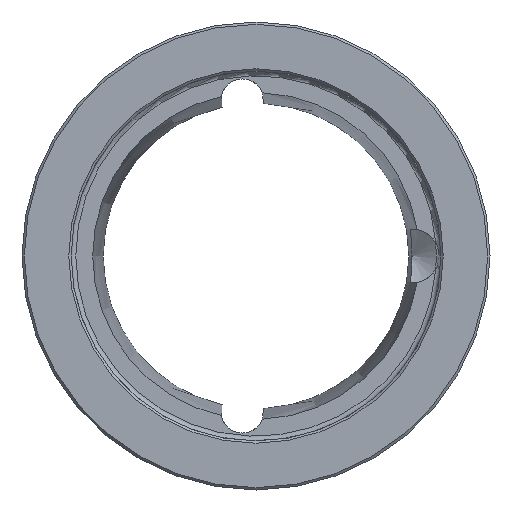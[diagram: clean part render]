
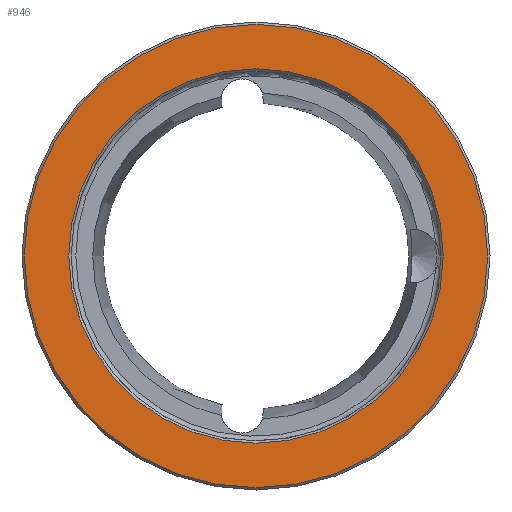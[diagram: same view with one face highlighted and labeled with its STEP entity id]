
A CAD part, left-side view. The second image highlights one B-rep face of the part: STEP entity #946.
In plain terms, the highlighted planar face has unit normal (-1, 0, 0).
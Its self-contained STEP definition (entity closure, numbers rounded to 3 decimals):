
#72=FACE_BOUND('',#279,.T.);
#139=PLANE('',#1071);
#170=FACE_OUTER_BOUND('',#278,.T.);
#278=EDGE_LOOP('',(#765));
#279=EDGE_LOOP('',(#766));
#426=CIRCLE('',#1070,40.);
#427=CIRCLE('',#1072,49.5);
#524=VERTEX_POINT('',#1708);
#525=VERTEX_POINT('',#1711);
#623=EDGE_CURVE('',#524,#524,#426,.T.);
#624=EDGE_CURVE('',#525,#525,#427,.T.);
#765=ORIENTED_EDGE('',*,*,#624,.F.);
#766=ORIENTED_EDGE('',*,*,#623,.T.);
#946=ADVANCED_FACE('',(#170,#72),#139,.T.);
#1070=AXIS2_PLACEMENT_3D('',#1709,#1316,#1317);
#1071=AXIS2_PLACEMENT_3D('',#1710,#1318,#1319);
#1072=AXIS2_PLACEMENT_3D('',#1712,#1320,#1321);
#1316=DIRECTION('center_axis',(1.,0.,0.));
#1317=DIRECTION('ref_axis',(0.,0.,-1.));
#1318=DIRECTION('center_axis',(-1.,0.,0.));
#1319=DIRECTION('ref_axis',(0.,0.,1.));
#1320=DIRECTION('center_axis',(1.,0.,0.));
#1321=DIRECTION('ref_axis',(0.,0.,-1.));
#1708=CARTESIAN_POINT('',(0.869,75.226,0.));
#1709=CARTESIAN_POINT('Origin',(0.869,35.226,0.));
#1710=CARTESIAN_POINT('Origin',(0.869,84.726,0.));
#1711=CARTESIAN_POINT('',(0.869,84.726,0.));
#1712=CARTESIAN_POINT('Origin',(0.869,35.226,0.));
